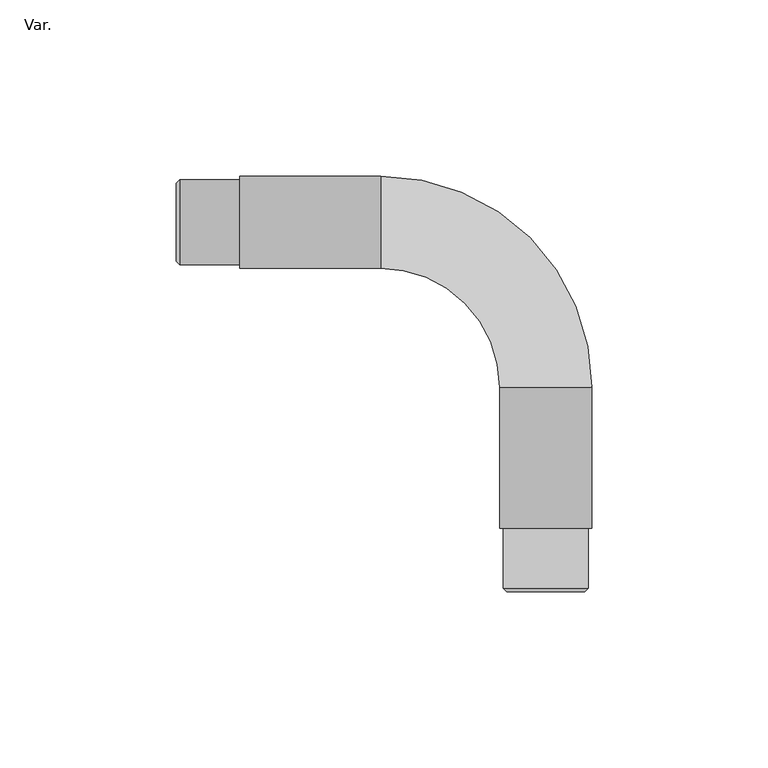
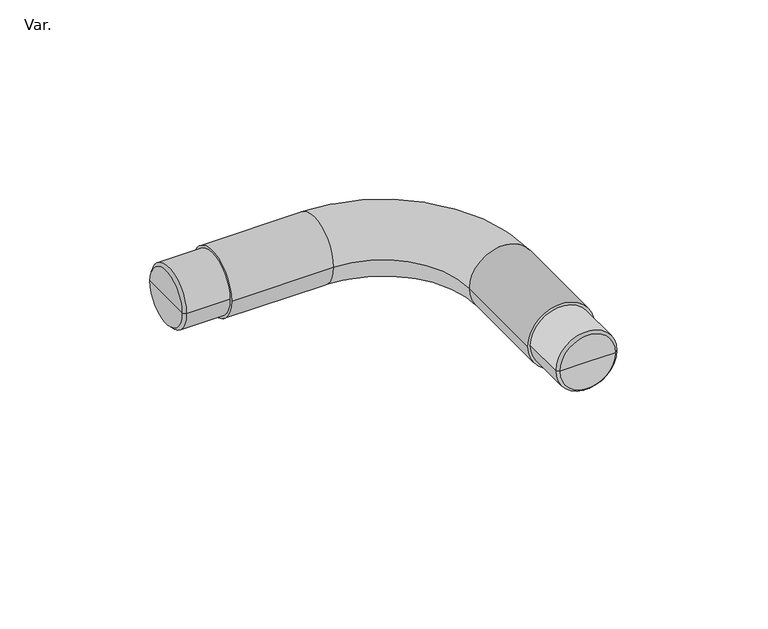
"""IFC4 building model written with IfcOpenShell, lengths in millimetres: cable carrier fitting geometry, AmancoWavin_ConexõesdoConduite_LinhaEletricaRoscavelCurva : Var.."""

from ifc_helpers import new_model, si_unit, point, frame, origin, place, context, project, spatial, polyline, circle_curve, ellipse_curve, trimmed, source, transform, mapped, element, save
from ifc_brep_helpers import plane_surface, cylinder_surface, revolved_surface, advanced_brep


def var_78230c35(model_context):
    return source(origin(), model_context, "Body", "AdvancedBrep", [
        advanced_brep(
        [(-12.0585, -86.9, 0.0), (0.0, -86.9, 0.0), (12.0585, -86.9, 0.0), (-12.0585, -104.0, 0.0), (12.0585, -104.0, 0.0), (-11.0585, -105.0, 0.0), (11.0585, -105.0, 0.0), (0.0, -105.0, 0.0)],
        [
            (0, 1),
            (1, 2),
            (2, 0, circle_curve(frame((0.0, -86.9, 0.0), z_axis=(0.0, 1.0, 0.0), x_axis=(1.0, 0.0, 0.0)), 12.0585)),
            (0, 2, circle_curve(frame((0.0, -86.9, 0.0), z_axis=(0.0, 1.0, 0.0), x_axis=(1.0, 0.0, 0.0)), 12.0585)),
            (3, 0),
            (2, 4),
            (4, 3, circle_curve(frame((0.0, -104.0, 0.0), z_axis=(0.0, 1.0, 0.0), x_axis=(1.0, 0.0, 0.0)), 12.0585)),
            (3, 4, circle_curve(frame((0.0, -104.0, 0.0), z_axis=(0.0, 1.0, 0.0), x_axis=(1.0, 0.0, 0.0)), 12.0585)),
            (5, 3),
            (4, 6),
            (6, 5, circle_curve(frame((0.0, -105.0, 0.0), z_axis=(0.0, 1.0, 0.0), x_axis=(1.0, 0.0, 0.0)), 11.0585)),
            (5, 6, circle_curve(frame((0.0, -105.0, 0.0), z_axis=(0.0, 1.0, 0.0), x_axis=(1.0, 0.0, 0.0)), 11.0585)),
            (7, 5),
            (6, 7),
        ],
        [
            plane_surface(frame((0.0, -86.9, 0.0), z_axis=(0.0, 1.0, 0.0), x_axis=(1.0, 0.0, 0.0))),
            cylinder_surface(frame((0.0, -1785.0, 0.0), z_axis=(0.0, -1.0, 0.0), x_axis=(1.0, 0.0, 0.0)), 12.0585),
            revolved_surface(polyline([(12.0585, -104.0, 0.0), (11.0585, -105.0, 0.0)]), (0.0, -1785.0, 0.0), (0.0, -1.0, 0.0)),
            plane_surface(frame((0.0, -105.0, 0.0), z_axis=(0.0, -1.0, 0.0), x_axis=(1.0, 0.0, 0.0))),
        ],
        [
            (0, [[1, 2, 3]]),
            (0, [[-2, -1, 4]]),
            (1, [[5, -3, 6, 7]]),
            (1, [[-6, -4, -5, 8]]),
            (2, [[9, -7, 10, 11]]),
            (2, [[-10, -8, -9, 12]]),
            (3, [[13, -11, 14]]),
            (3, [[-14, -12, -13]]),
        ],
    ),
        advanced_brep(
        [(-105.0, 11.0585, 0.0), (-104.0, 12.0585, 0.0), (-104.0, -12.0585, 0.0), (-105.0, -11.0585, 0.0), (-105.0, 0.0, 0.0), (-86.9, 12.0585, 0.0), (-86.9, 0.0, 0.0), (-86.9, -12.0585, 0.0)],
        [
            (0, 1),
            (1, 2, circle_curve(frame((-104.0, 0.0, 0.0), z_axis=(-1.0, 0.0, 0.0), x_axis=(0.0, -1.0, 0.0)), 12.0585)),
            (2, 3),
            (3, 0, circle_curve(frame((-105.0, 0.0, 0.0), z_axis=(1.0, 0.0, 0.0), x_axis=(0.0, -1.0, 0.0)), 11.0585)),
            (2, 1, circle_curve(frame((-104.0, 0.0, 0.0), z_axis=(-1.0, 0.0, 0.0), x_axis=(0.0, -1.0, 0.0)), 12.0585)),
            (0, 3, circle_curve(frame((-105.0, 0.0, 0.0), z_axis=(1.0, 0.0, 0.0), x_axis=(0.0, -1.0, 0.0)), 11.0585)),
            (4, 0),
            (3, 4),
            (5, 6),
            (6, 7),
            (7, 5, circle_curve(frame((-86.9, 0.0, 0.0), z_axis=(1.0, 0.0, 0.0), x_axis=(0.0, -1.0, 0.0)), 12.0585)),
            (5, 7, circle_curve(frame((-86.9, 0.0, 0.0), z_axis=(1.0, 0.0, 0.0), x_axis=(0.0, -1.0, 0.0)), 12.0585)),
            (1, 5),
            (7, 2),
        ],
        [
            revolved_surface(polyline([(-104.0, -12.0585, 0.0), (-105.0, -11.0585, 0.0)]), (2000.0, 0.0, 0.0), (-1.0, 0.0, 0.0)),
            plane_surface(frame((-105.0, 0.0, 0.0), z_axis=(-1.0, 0.0, 0.0), x_axis=(0.0, -1.0, 0.0))),
            plane_surface(frame((-86.9, 0.0, 0.0), z_axis=(1.0, 0.0, 0.0), x_axis=(0.0, -1.0, 0.0))),
            cylinder_surface(frame((2000.0, 0.0, 0.0), z_axis=(-1.0, 0.0, 0.0), x_axis=(0.0, -1.0, 0.0)), 12.0585),
        ],
        [
            (0, [[1, 2, 3, 4]]),
            (0, [[-3, 5, -1, 6]]),
            (1, [[7, -4, 8]]),
            (1, [[-8, -6, -7]]),
            (2, [[9, 10, 11]]),
            (2, [[-10, -9, 12]]),
            (3, [[13, -11, 14, -2]]),
            (3, [[-14, -12, -13, -5]]),
        ],
    ),
        advanced_brep(
        [(-86.9, 13.1, 0.0), (-86.9, -13.1, 0.0), (-46.9, -13.1, 0.0), (-46.9, 13.1, 0.0), (-13.1, -46.9, 0.0), (13.1, -46.9, 0.0), (13.1, -86.9, 0.0), (-13.1, -86.9, 0.0)],
        [
            (0, 1, circle_curve(frame((-86.9, 0.0, 0.0), z_axis=(-1.0, 0.0, 0.0), x_axis=(0.0, -1.0, 0.0)), 13.1)),
            (1, 0, circle_curve(frame((-86.9, 0.0, 0.0), z_axis=(-1.0, 0.0, 0.0), x_axis=(0.0, -1.0, 0.0)), 13.1)),
            (1, 2),
            (2, 3, circle_curve(frame((-46.9, 0.0, 0.0), z_axis=(-1.0, 0.0, 0.0), x_axis=(0.0, -1.0, 0.0)), 13.1)),
            (3, 0),
            (3, 2, circle_curve(frame((-46.9, 0.0, 0.0), z_axis=(-1.0, 0.0, 0.0), x_axis=(0.0, -1.0, 0.0)), 13.1)),
            (4, 5, circle_curve(frame((0.0, -46.9, 0.0), z_axis=(0.0, 1.0, 0.0), x_axis=(-1.0, 0.0, 0.0)), 13.1)),
            (5, 3, circle_curve(frame((-46.9, -46.9, 0.0), z_axis=(0.0, 0.0, 1.0), x_axis=(0.0, 1.0, 0.0)), 60.0)),
            (2, 4, circle_curve(frame((-46.9, -46.9, 0.0), z_axis=(0.0, 0.0, -1.0), x_axis=(0.0, 1.0, 0.0)), 33.8)),
            (5, 4, circle_curve(frame((0.0, -46.9, 0.0), z_axis=(0.0, 1.0, 0.0), x_axis=(-1.0, 0.0, 0.0)), 13.1)),
            (6, 7, circle_curve(frame((0.0, -86.9, 0.0), z_axis=(0.0, -1.0, 0.0), x_axis=(-1.0, 0.0, 0.0)), 13.1)),
            (7, 6, circle_curve(frame((0.0, -86.9, 0.0), z_axis=(0.0, -1.0, 0.0), x_axis=(-1.0, 0.0, 0.0)), 13.1)),
            (4, 7),
            (6, 5),
        ],
        [
            plane_surface(frame((-86.9, 0.0, 0.0), z_axis=(-1.0, 0.0, 0.0), x_axis=(0.0, 0.0, 1.0))),
            cylinder_surface(frame((-86.9, 0.0, 0.0), z_axis=(-1.0, 0.0, 0.0), x_axis=(0.0, -1.0, 0.0)), 13.1),
            revolved_surface(trimmed(ellipse_curve(frame((-46.9, 0.0, 0.0), z_axis=(1.0, 0.0, 0.0), x_axis=(0.0, -1.0, 0.0)), 13.1, 13.1), [point((-46.9, 13.1, 0.0))], [point((-46.9, -13.1, 0.0))], True, "CARTESIAN"), (-46.9, -46.9, 0.0), (0.0, 0.0, 1.0)),
            revolved_surface(trimmed(ellipse_curve(frame((-46.9, 0.0, 0.0), z_axis=(1.0, 0.0, 0.0), x_axis=(0.0, -1.0, 0.0)), 13.1, 13.1), [point((-46.9, -13.1, 0.0))], [point((-46.9, 13.1, 0.0))], True, "CARTESIAN"), (-46.9, -46.9, 0.0), (0.0, 0.0, 1.0)),
            plane_surface(frame((0.0, -86.9, 0.0), z_axis=(0.0, -1.0, 0.0), x_axis=(0.0, 0.0, 1.0))),
            cylinder_surface(frame((0.0, -46.9, 0.0), z_axis=(0.0, 1.0, 0.0), x_axis=(-1.0, 0.0, 0.0)), 13.1),
        ],
        [
            (0, [[1, 2]]),
            (1, [[3, 4, 5, -2]]),
            (1, [[-5, 6, -3, -1]]),
            (2, [[7, 8, -4, 9]]),
            (3, [[10, -9, -6, -8]]),
            (4, [[11, 12]]),
            (5, [[13, -11, 14, -7]]),
            (5, [[-14, -12, -13, -10]]),
        ],
    ),
    ])


if __name__ == "__main__":
    model = new_model("IFC4")
    model_context = context("Model", 3, world=origin())
    ifc_project = project(units=[si_unit("LENGTHUNIT", "METRE", prefix="MILLI")], contexts=[model_context])
    site = spatial("IfcSite", under=ifc_project)
    building = spatial("IfcBuilding", under=site)
    placement = place(None, origin())
    var_shape = var_78230c35(model_context)
    element("IfcCableCarrierFitting", 1, ObjectType="AmancoWavin_ConexõesdoConduite_LinhaEletricaRoscavelCurva : Var.", at=placement, inside=building, context=model_context, shape_type="MappedRepresentation", body=[
        mapped(var_shape, transform((0.0, 0.0, 0.0), x_axis=(1.0, 0.0, 0.0), y_axis=(0.0, 1.0, 0.0), z_axis=(0.0, 0.0, 1.0))),
    ])
    save(model, "model.ifc")
